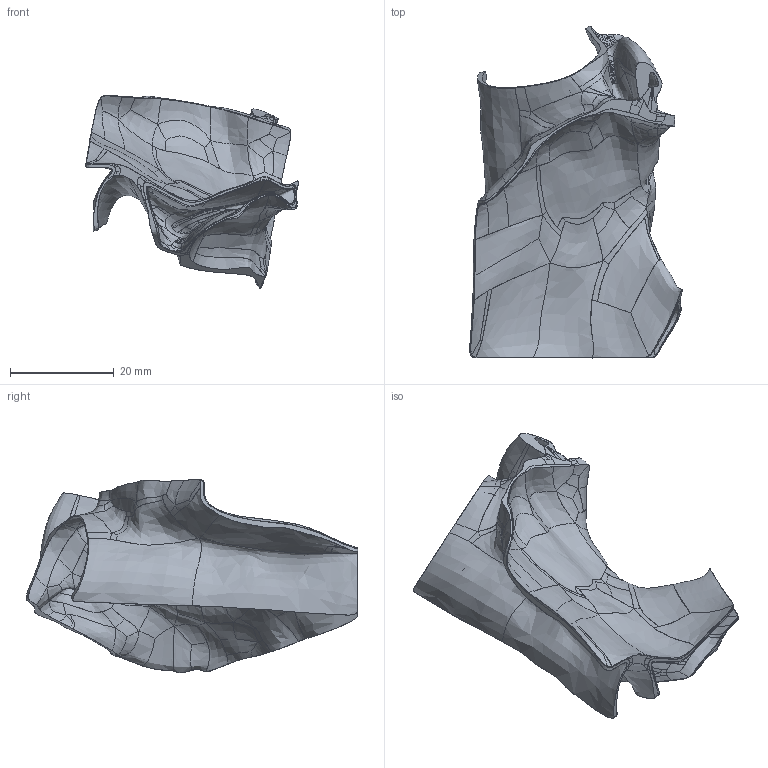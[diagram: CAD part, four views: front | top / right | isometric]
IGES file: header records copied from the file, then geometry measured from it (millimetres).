
Global section: file name: C:\FDA Main\FDA-Septal-Models\6216810\6216810.phase.75.igs; native system: Rhinoceros ( Mar  9 2011 ); preprocessor: Trout Lake IGES 012 Mar  9 2011; date: 120611.031429; units: millimetre
Bounding box: 40.97 x 63.9 x 37.29 mm (x, y, z)
Surface area: 9135.9 mm2 (no closed solid volume)
Topology: 0 solids, 0 shells, 496 faces, 1984 edges, 1984 vertices
Faces by surface type: bspline 496
